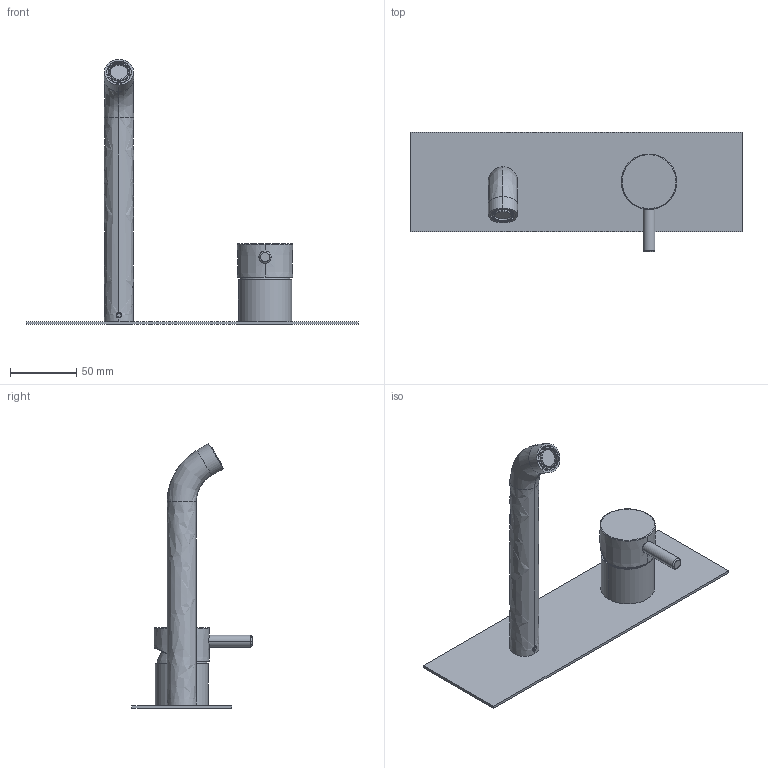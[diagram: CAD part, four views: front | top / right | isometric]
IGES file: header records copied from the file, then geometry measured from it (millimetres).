
Start section:  PTC IGES file: 12542.igs
Global section: file name: 12542.igs; native system: Creo Parametric by PTC Inc.; preprocessor: 2022014; author: carloff; organization: Unknown; date: 20240319.155754; units: millimetre
Bounding box: 250 x 90.4 x 199.53 mm (x, y, z)
Surface area: 111428.9 mm2 (no closed solid volume)
Topology: 0 solids, 0 shells, 841 faces, 4842 edges, 4838 vertices
Faces by surface type: revolution 479, bspline 362
